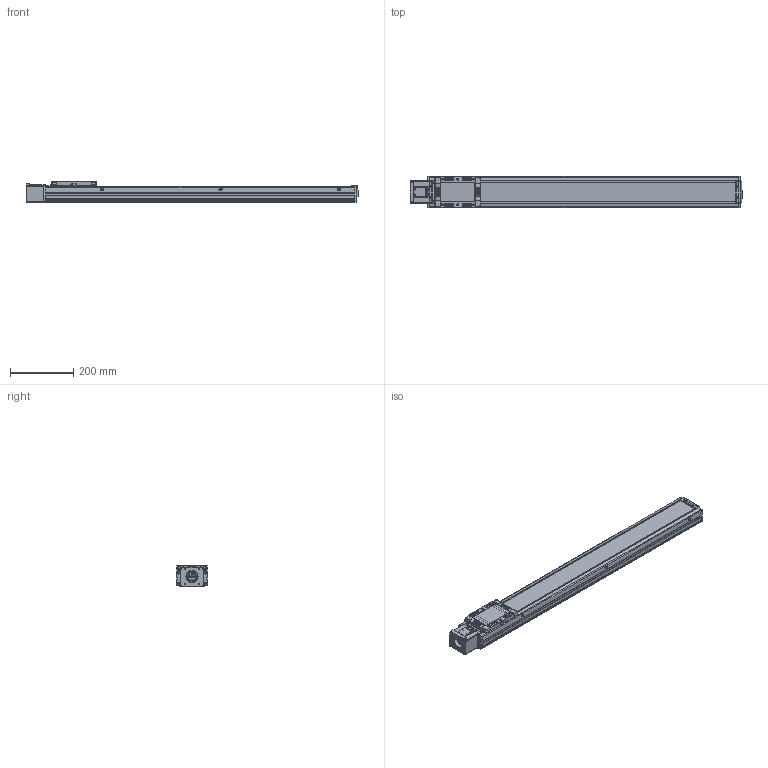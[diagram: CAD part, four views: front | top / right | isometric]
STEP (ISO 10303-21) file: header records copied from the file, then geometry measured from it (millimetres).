
FILE_DESCRIPTION(('STEP AP214'),'1');
FILE_NAME('Z:/Web/3D/SAN100/SAN100 양산용 (STEP)/SAN100ㅁㅁ-800S.stp','2013-04-30T01:05:08',(' '),(' '),'Spatial InterOp 3D',' ',' ');
FILE_SCHEMA(('automotive_design'));
Length unit declared in the file: millimetre
Products named in the file (42): SUS COVER; SFX-SAN100; RRCV-SAN100; 스크루 : Round - M4.0 x 10.0; M3.0 x 6.0; 스크루 : Round - M3.0 x 6.0; FRBL-SAN100; SLBL-SAN100; SLCV-SAN100; 스크루 : Countersunk - M3.0 x 6.0; BASE; 스크루 : Round - M5.0 x 6.0; MTHZ-SAN100-S56A; SDA26C-8-6.35; SSFX-SAN65; CPLCV-SAN65; FRCV-SAN100
Bounding box: 1052.5 x 100 x 66 mm (x, y, z)
Volume: 2839269.1 mm3; surface area: 690808.3 mm2
Topology: 42 solids, 43 shells, 2530 faces, 6672 edges, 4307 vertices
Faces by surface type: plane 1171, cylinder 1001, cone 237, sphere 56, torus 45, bspline 20
Entity records: 101526 total; most frequent: CARTESIAN_POINT 16173, DIRECTION 14124, ORIENTED_EDGE 13140, EDGE_CURVE 6570, AXIS2_PLACEMENT_3D 5205, VERTEX_POINT 4307, LINE 3714, VECTOR 3714
